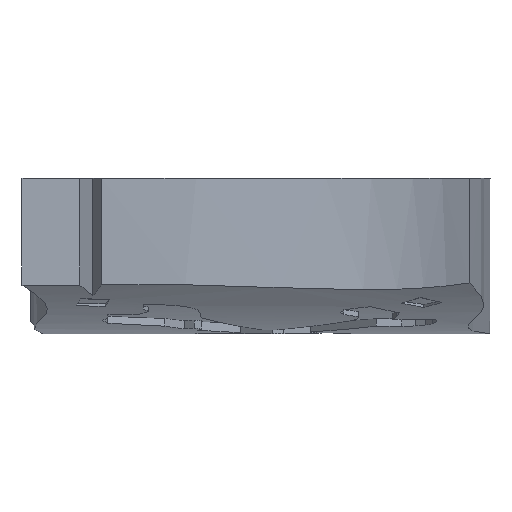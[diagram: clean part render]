
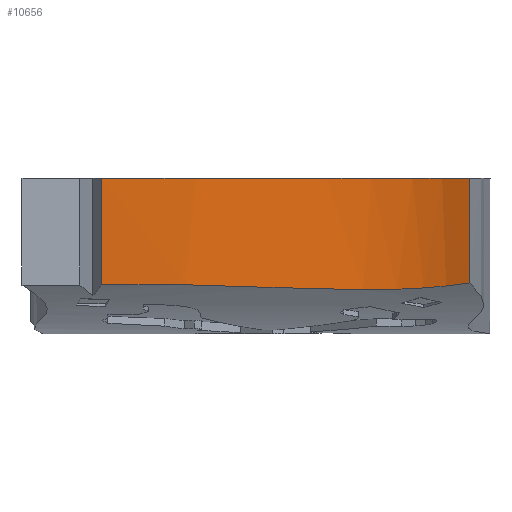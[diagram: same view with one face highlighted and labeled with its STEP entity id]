
A CAD part, top view. The second image highlights one B-rep face of the part: STEP entity #10656.
In plain terms, the highlighted free-form (B-spline) face has degree [5, 1] with [20, 2] control points.
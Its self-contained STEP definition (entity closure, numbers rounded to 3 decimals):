
#17=(
BOUNDED_CURVE()
B_SPLINE_CURVE(5,(#17920,#17921,#17922,#17923,#17924,#17925,#17926,#17927,
#17928,#17929,#17930,#17931,#17932,#17933,#17934,#17935,#17936,#17937,#17938,
#17939),.UNSPECIFIED.,.F.,.F.)
B_SPLINE_CURVE_WITH_KNOTS((6,1,1,1,1,1,1,1,1,1,1,1,1,1,1,6),(-1.,-0.933,
-0.867,-0.8,-0.733,-0.667,-0.6,-0.533,
-0.467,-0.4,-0.333,-0.267,-0.2,-0.133,
-0.067,0.),.UNSPECIFIED.)
CURVE()
GEOMETRIC_REPRESENTATION_ITEM()
RATIONAL_B_SPLINE_CURVE((1.,1.,1.,1.,1.,1.,1.,1.,1.,1.,1.,1.,1.,1.,1.,1.,
1.,1.,1.,1.))
REPRESENTATION_ITEM('')
);
#21=(
BOUNDED_SURFACE()
B_SPLINE_SURFACE(5,1,((#17879,#17880),(#17881,#17882),(#17883,#17884),(#17885,
#17886),(#17887,#17888),(#17889,#17890),(#17891,#17892),(#17893,#17894),
(#17895,#17896),(#17897,#17898),(#17899,#17900),(#17901,#17902),(#17903,
#17904),(#17905,#17906),(#17907,#17908),(#17909,#17910),(#17911,#17912),
(#17913,#17914),(#17915,#17916),(#17917,#17918)),.UNSPECIFIED.,.F.,.F.,
 .F.)
B_SPLINE_SURFACE_WITH_KNOTS((6,1,1,1,1,1,1,1,1,1,1,1,1,1,1,6),(2,2),(-1.,
-0.933,-0.867,-0.8,-0.733,-0.667,
-0.6,-0.533,-0.467,-0.4,-0.333,-0.267,
-0.2,-0.133,-0.067,0.),(0.,3.),.UNSPECIFIED.)
GEOMETRIC_REPRESENTATION_ITEM()
RATIONAL_B_SPLINE_SURFACE(((1.,1.),(1.,1.),(1.,1.),(1.,1.),(1.,1.),(1.,
1.),(1.,1.),(1.,1.),(1.,1.),(1.,1.),(1.,1.),(1.,1.),(1.,1.),(1.,1.),(1.,
1.),(1.,1.),(1.,1.),(1.,1.),(1.,1.),(1.,1.)))
REPRESENTATION_ITEM('')
SURFACE()
);
#25=B_SPLINE_CURVE_WITH_KNOTS('',3,(#17582,#17583,#17584,#17585,#17586,
#17587,#17588,#17589),.UNSPECIFIED.,.F.,.F.,(4,2,2,4),(-6.033,
-3.175,-1.235,0.),.UNSPECIFIED.);
#985=FACE_OUTER_BOUND('',#1558,.T.);
#1558=EDGE_LOOP('',(#8927,#8928,#8929,#8930));
#2390=LINE('',#17690,#3471);
#2395=LINE('',#17940,#3476);
#3471=VECTOR('',#14406,10.);
#3476=VECTOR('',#14413,10.);
#4657=VERTEX_POINT('',#17534);
#4658=VERTEX_POINT('',#17581);
#4661=VERTEX_POINT('',#17659);
#4665=VERTEX_POINT('',#17919);
#6118=EDGE_CURVE('',#4658,#4657,#25,.T.);
#6123=EDGE_CURVE('',#4657,#4661,#2390,.T.);
#6130=EDGE_CURVE('',#4665,#4661,#17,.T.);
#6131=EDGE_CURVE('',#4658,#4665,#2395,.T.);
#8927=ORIENTED_EDGE('',*,*,#6118,.T.);
#8928=ORIENTED_EDGE('',*,*,#6123,.T.);
#8929=ORIENTED_EDGE('',*,*,#6130,.F.);
#8930=ORIENTED_EDGE('',*,*,#6131,.F.);
#10656=ADVANCED_FACE('',(#985),#21,.T.);
#14406=DIRECTION('',(0.,1.,0.));
#14413=DIRECTION('',(0.,1.,0.));
#17534=CARTESIAN_POINT('',(127.792,-64.363,45.006));
#17581=CARTESIAN_POINT('',(77.335,-64.621,44.177));
#17582=CARTESIAN_POINT('Ctrl Pts',(77.335,-64.621,44.177));
#17583=CARTESIAN_POINT('Ctrl Pts',(87.696,-64.421,44.829));
#17584=CARTESIAN_POINT('Ctrl Pts',(96.072,-64.82,43.536));
#17585=CARTESIAN_POINT('Ctrl Pts',(108.418,-65.255,42.069));
#17586=CARTESIAN_POINT('Ctrl Pts',(113.09,-65.377,41.651));
#17587=CARTESIAN_POINT('Ctrl Pts',(120.592,-65.146,42.438));
#17588=CARTESIAN_POINT('Ctrl Pts',(124.147,-64.937,43.181));
#17589=CARTESIAN_POINT('Ctrl Pts',(127.792,-64.363,45.006));
#17659=CARTESIAN_POINT('',(127.792,-50.,45.006));
#17690=CARTESIAN_POINT('',(127.792,-80.,45.006));
#17879=CARTESIAN_POINT('Ctrl Pts',(77.335,-80.,44.177));
#17880=CARTESIAN_POINT('Ctrl Pts',(77.335,-50.,44.177));
#17881=CARTESIAN_POINT('Ctrl Pts',(78.018,-80.,44.22));
#17882=CARTESIAN_POINT('Ctrl Pts',(78.018,-50.,44.22));
#17883=CARTESIAN_POINT('Ctrl Pts',(79.388,-80.,44.293));
#17884=CARTESIAN_POINT('Ctrl Pts',(79.388,-50.,44.293));
#17885=CARTESIAN_POINT('Ctrl Pts',(81.458,-80.,44.364));
#17886=CARTESIAN_POINT('Ctrl Pts',(81.458,-50.,44.364));
#17887=CARTESIAN_POINT('Ctrl Pts',(84.248,-80.,44.38));
#17888=CARTESIAN_POINT('Ctrl Pts',(84.248,-50.,44.38));
#17889=CARTESIAN_POINT('Ctrl Pts',(87.785,-80.,44.271));
#17890=CARTESIAN_POINT('Ctrl Pts',(87.785,-50.,44.271));
#17891=CARTESIAN_POINT('Ctrl Pts',(91.368,-80.,44.035));
#17892=CARTESIAN_POINT('Ctrl Pts',(91.368,-50.,44.035));
#17893=CARTESIAN_POINT('Ctrl Pts',(94.989,-80.,43.688));
#17894=CARTESIAN_POINT('Ctrl Pts',(94.989,-50.,43.688));
#17895=CARTESIAN_POINT('Ctrl Pts',(98.634,-80.,43.258));
#17896=CARTESIAN_POINT('Ctrl Pts',(98.634,-50.,43.258));
#17897=CARTESIAN_POINT('Ctrl Pts',(102.278,-80.,42.794));
#17898=CARTESIAN_POINT('Ctrl Pts',(102.278,-50.,42.794));
#17899=CARTESIAN_POINT('Ctrl Pts',(105.887,-80.,42.361));
#17900=CARTESIAN_POINT('Ctrl Pts',(105.887,-50.,42.361));
#17901=CARTESIAN_POINT('Ctrl Pts',(109.426,-80.,42.03));
#17902=CARTESIAN_POINT('Ctrl Pts',(109.426,-50.,42.03));
#17903=CARTESIAN_POINT('Ctrl Pts',(112.861,-80.,41.869));
#17904=CARTESIAN_POINT('Ctrl Pts',(112.861,-50.,41.869));
#17905=CARTESIAN_POINT('Ctrl Pts',(116.164,-80.,41.937));
#17906=CARTESIAN_POINT('Ctrl Pts',(116.164,-50.,41.937));
#17907=CARTESIAN_POINT('Ctrl Pts',(119.315,-80.,42.269));
#17908=CARTESIAN_POINT('Ctrl Pts',(119.315,-50.,42.269));
#17909=CARTESIAN_POINT('Ctrl Pts',(122.31,-80.,42.879));
#17910=CARTESIAN_POINT('Ctrl Pts',(122.31,-50.,42.879));
#17911=CARTESIAN_POINT('Ctrl Pts',(124.58,-80.,43.592));
#17912=CARTESIAN_POINT('Ctrl Pts',(124.58,-50.,43.592));
#17913=CARTESIAN_POINT('Ctrl Pts',(126.213,-80.,44.251));
#17914=CARTESIAN_POINT('Ctrl Pts',(126.213,-50.,44.251));
#17915=CARTESIAN_POINT('Ctrl Pts',(127.271,-80.,44.745));
#17916=CARTESIAN_POINT('Ctrl Pts',(127.271,-50.,44.745));
#17917=CARTESIAN_POINT('Ctrl Pts',(127.792,-80.,45.006));
#17918=CARTESIAN_POINT('Ctrl Pts',(127.792,-50.,45.006));
#17919=CARTESIAN_POINT('',(77.335,-50.,44.177));
#17920=CARTESIAN_POINT('Ctrl Pts',(77.335,-50.,44.177));
#17921=CARTESIAN_POINT('Ctrl Pts',(78.018,-50.,44.22));
#17922=CARTESIAN_POINT('Ctrl Pts',(79.388,-50.,44.293));
#17923=CARTESIAN_POINT('Ctrl Pts',(81.458,-50.,44.364));
#17924=CARTESIAN_POINT('Ctrl Pts',(84.248,-50.,44.38));
#17925=CARTESIAN_POINT('Ctrl Pts',(87.785,-50.,44.271));
#17926=CARTESIAN_POINT('Ctrl Pts',(91.368,-50.,44.035));
#17927=CARTESIAN_POINT('Ctrl Pts',(94.989,-50.,43.688));
#17928=CARTESIAN_POINT('Ctrl Pts',(98.634,-50.,43.258));
#17929=CARTESIAN_POINT('Ctrl Pts',(102.278,-50.,42.794));
#17930=CARTESIAN_POINT('Ctrl Pts',(105.887,-50.,42.361));
#17931=CARTESIAN_POINT('Ctrl Pts',(109.426,-50.,42.03));
#17932=CARTESIAN_POINT('Ctrl Pts',(112.861,-50.,41.869));
#17933=CARTESIAN_POINT('Ctrl Pts',(116.164,-50.,41.937));
#17934=CARTESIAN_POINT('Ctrl Pts',(119.315,-50.,42.269));
#17935=CARTESIAN_POINT('Ctrl Pts',(122.31,-50.,42.879));
#17936=CARTESIAN_POINT('Ctrl Pts',(124.58,-50.,43.592));
#17937=CARTESIAN_POINT('Ctrl Pts',(126.213,-50.,44.251));
#17938=CARTESIAN_POINT('Ctrl Pts',(127.271,-50.,44.745));
#17939=CARTESIAN_POINT('Ctrl Pts',(127.792,-50.,45.006));
#17940=CARTESIAN_POINT('',(77.335,-80.,44.177));
